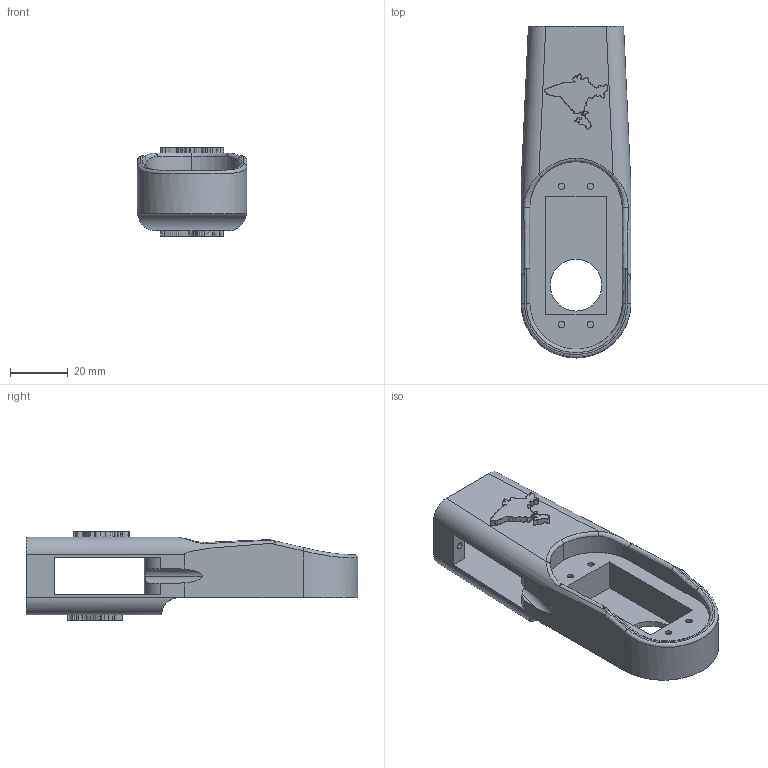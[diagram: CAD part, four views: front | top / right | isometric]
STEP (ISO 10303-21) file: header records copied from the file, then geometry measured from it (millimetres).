
FILE_DESCRIPTION (( 'STEP AP203' ), '1' );
FILE_NAME ('Arm 02 v3_r1.STEP', '2021-09-16T07:09:30', ( '' ), ( '' ), 'SwSTEP 2.0', 'SolidWorks 2019', '' );
FILE_SCHEMA (( 'CONFIG_CONTROL_DESIGN' ));
Length unit declared in the file: millimetre
Products named in the file (1): Arm 02 v3_r1
Bounding box: 38 x 115 x 31 mm (x, y, z)
Volume: 50684.3 mm3; surface area: 19286.1 mm2
Topology: 1 solids, 1 shells, 101 faces, 250 edges, 161 vertices
Faces by surface type: plane 43, cylinder 39, bspline 17, torus 2
Entity records: 9341 total; most frequent: CARTESIAN_POINT 6981, ORIENTED_EDGE 500, DIRECTION 435, EDGE_CURVE 250, VERTEX_POINT 161, AXIS2_PLACEMENT_3D 160, EDGE_LOOP 117, LINE 115
